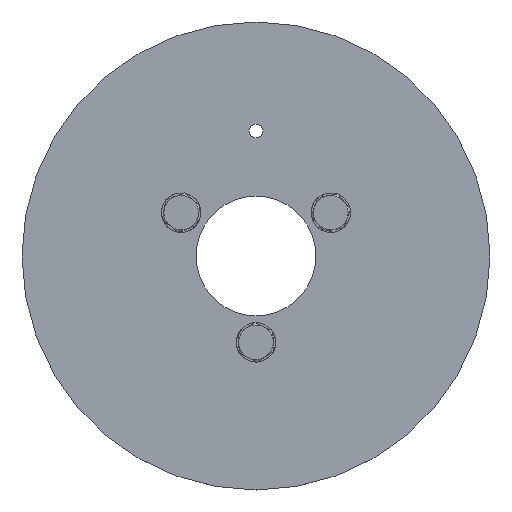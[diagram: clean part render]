
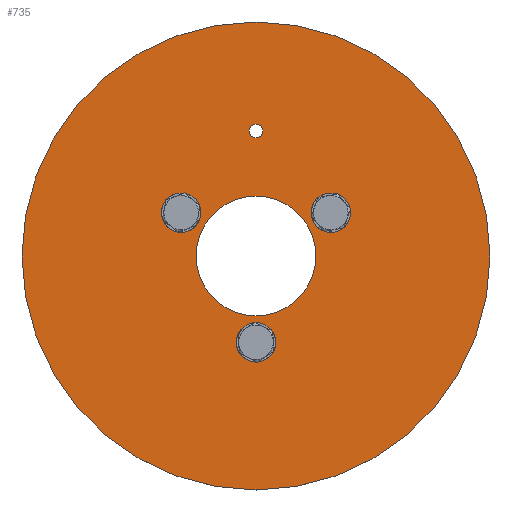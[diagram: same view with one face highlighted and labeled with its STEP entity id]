
A CAD part, top view. The second image highlights one B-rep face of the part: STEP entity #735.
In plain terms, the highlighted planar face has unit normal (0, 0, 1) as drawn and (0, -1, 0) by its records, which use the part's own axes.
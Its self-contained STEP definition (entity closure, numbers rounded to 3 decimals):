
#12 = DIRECTION ( 'NONE',  ( 0., 0., 1. ) ) ;
#42 = ORIENTED_EDGE ( 'NONE', *, *, #473, .T. ) ;
#46 = EDGE_LOOP ( 'NONE', ( #1653, #194 ) ) ;
#81 = CARTESIAN_POINT ( 'NONE',  ( -28.146, -2.5, -21.75 ) ) ;
#83 = VERTEX_POINT ( 'NONE', #508 ) ;
#130 = ORIENTED_EDGE ( 'NONE', *, *, #804, .T. ) ;
#194 = ORIENTED_EDGE ( 'NONE', *, *, #1097, .F. ) ;
#195 = DIRECTION ( 'NONE',  ( 0., 1., 0. ) ) ;
#211 = DIRECTION ( 'NONE',  ( 0., 0., 1. ) ) ;
#269 = FACE_BOUND ( 'NONE', #2398, .T. ) ;
#272 = DIRECTION ( 'NONE',  ( 0., 0., 1. ) ) ;
#279 = AXIS2_PLACEMENT_3D ( 'NONE', #1552, #2155, #3018 ) ;
#292 = FACE_BOUND ( 'NONE', #1186, .T. ) ;
#305 = ORIENTED_EDGE ( 'NONE', *, *, #1963, .T. ) ;
#334 = ORIENTED_EDGE ( 'NONE', *, *, #1368, .T. ) ;
#373 = DIRECTION ( 'NONE',  ( 0., 0., 1. ) ) ;
#407 = AXIS2_PLACEMENT_3D ( 'NONE', #3476, #3196, #1456 ) ;
#457 = VERTEX_POINT ( 'NONE', #81 ) ;
#473 = EDGE_CURVE ( 'NONE', #2250, #3361, #2476, .T. ) ;
#490 = CIRCLE ( 'NONE', #3176, 5.5 ) ;
#508 = CARTESIAN_POINT ( 'NONE',  ( 0., -2.5, -49.5 ) ) ;
#564 = FACE_BOUND ( 'NONE', #2452, .T. ) ;
#569 = DIRECTION ( 'NONE',  ( 0., 0., 1. ) ) ;
#735 = ADVANCED_FACE ( 'NONE', ( #564, #2053, #269, #292, #1433, #2331 ), #2636, .F. ) ;
#742 = CARTESIAN_POINT ( 'NONE',  ( 28.146, -2.5, -21.75 ) ) ;
#795 = DIRECTION ( 'NONE',  ( 0., 1., 0. ) ) ;
#804 = EDGE_CURVE ( 'NONE', #3361, #2250, #2778, .T. ) ;
#820 = VERTEX_POINT ( 'NONE', #1498 ) ;
#837 = AXIS2_PLACEMENT_3D ( 'NONE', #1997, #1735, #569 ) ;
#841 = AXIS2_PLACEMENT_3D ( 'NONE', #3340, #2157, #2189 ) ;
#943 = VERTEX_POINT ( 'NONE', #1447 ) ;
#1018 = AXIS2_PLACEMENT_3D ( 'NONE', #2510, #795, #2871 ) ;
#1039 = EDGE_CURVE ( 'NONE', #2188, #1724, #1511, .T. ) ;
#1050 = EDGE_CURVE ( 'NONE', #1724, #2188, #2665, .T. ) ;
#1063 = VERTEX_POINT ( 'NONE', #1957 ) ;
#1097 = EDGE_CURVE ( 'NONE', #1615, #820, #1925, .T. ) ;
#1108 = DIRECTION ( 'NONE',  ( 0., 0., 1. ) ) ;
#1109 = ORIENTED_EDGE ( 'NONE', *, *, #3165, .T. ) ;
#1186 = EDGE_LOOP ( 'NONE', ( #305, #334 ) ) ;
#1188 = AXIS2_PLACEMENT_3D ( 'NONE', #1460, #2891, #272 ) ;
#1190 = EDGE_CURVE ( 'NONE', #820, #1615, #2201, .T. ) ;
#1209 = EDGE_CURVE ( 'NONE', #1063, #83, #1736, .T. ) ;
#1210 = ORIENTED_EDGE ( 'NONE', *, *, #2979, .T. ) ;
#1229 = VERTEX_POINT ( 'NONE', #1413 ) ;
#1263 = AXIS2_PLACEMENT_3D ( 'NONE', #2489, #2929, #12 ) ;
#1285 = ORIENTED_EDGE ( 'NONE', *, *, #1039, .T. ) ;
#1324 = DIRECTION ( 'NONE',  ( 0., 1., 0. ) ) ;
#1368 = EDGE_CURVE ( 'NONE', #1229, #3358, #3674, .T. ) ;
#1413 = CARTESIAN_POINT ( 'NONE',  ( 0., -2.5, 27. ) ) ;
#1433 = FACE_BOUND ( 'NONE', #3595, .T. ) ;
#1447 = CARTESIAN_POINT ( 'NONE',  ( -28.146, -2.5, -10.75 ) ) ;
#1451 = EDGE_LOOP ( 'NONE', ( #2517, #1285 ) ) ;
#1456 = DIRECTION ( 'NONE',  ( 0., 0., 1. ) ) ;
#1460 = CARTESIAN_POINT ( 'NONE',  ( 0., -2.5, 32.5 ) ) ;
#1498 = CARTESIAN_POINT ( 'NONE',  ( 0., -2.5, 88. ) ) ;
#1511 = CIRCLE ( 'NONE', #837, 5.5 ) ;
#1540 = CARTESIAN_POINT ( 'NONE',  ( -28.146, -2.5, -16.25 ) ) ;
#1552 = CARTESIAN_POINT ( 'NONE',  ( 0., -2.5, -47. ) ) ;
#1615 = VERTEX_POINT ( 'NONE', #2498 ) ;
#1653 = ORIENTED_EDGE ( 'NONE', *, *, #1190, .F. ) ;
#1664 = CARTESIAN_POINT ( 'NONE',  ( 28.146, -2.5, -10.75 ) ) ;
#1675 = CARTESIAN_POINT ( 'NONE',  ( 0., -2.5, 0. ) ) ;
#1682 = AXIS2_PLACEMENT_3D ( 'NONE', #2520, #1324, #2767 ) ;
#1723 = CARTESIAN_POINT ( 'NONE',  ( 0., -2.5, 22.5 ) ) ;
#1724 = VERTEX_POINT ( 'NONE', #1664 ) ;
#1735 = DIRECTION ( 'NONE',  ( 0., 1., 0. ) ) ;
#1736 = CIRCLE ( 'NONE', #1796, 2.5 ) ;
#1796 = AXIS2_PLACEMENT_3D ( 'NONE', #2833, #2273, #211 ) ;
#1843 = DIRECTION ( 'NONE',  ( 0., 1., 0. ) ) ;
#1862 = CIRCLE ( 'NONE', #279, 2.5 ) ;
#1925 = CIRCLE ( 'NONE', #3518, 88. ) ;
#1938 = DIRECTION ( 'NONE',  ( 0., 0., 1. ) ) ;
#1957 = CARTESIAN_POINT ( 'NONE',  ( 0., -2.5, -44.5 ) ) ;
#1963 = EDGE_CURVE ( 'NONE', #3358, #1229, #490, .T. ) ;
#1997 = CARTESIAN_POINT ( 'NONE',  ( 28.146, -2.5, -16.25 ) ) ;
#2053 = FACE_BOUND ( 'NONE', #1451, .T. ) ;
#2107 = ORIENTED_EDGE ( 'NONE', *, *, #1209, .T. ) ;
#2122 = CARTESIAN_POINT ( 'NONE',  ( 0., -2.5, 32.5 ) ) ;
#2155 = DIRECTION ( 'NONE',  ( 0., 1., 0. ) ) ;
#2157 = DIRECTION ( 'NONE',  ( 0., 1., 0. ) ) ;
#2188 = VERTEX_POINT ( 'NONE', #742 ) ;
#2189 = DIRECTION ( 'NONE',  ( 0., 0., 1. ) ) ;
#2201 = CIRCLE ( 'NONE', #2885, 88. ) ;
#2250 = VERTEX_POINT ( 'NONE', #1723 ) ;
#2251 = DIRECTION ( 'NONE',  ( 0., 1., 0. ) ) ;
#2273 = DIRECTION ( 'NONE',  ( 0., 1., 0. ) ) ;
#2331 = FACE_OUTER_BOUND ( 'NONE', #46, .T. ) ;
#2398 = EDGE_LOOP ( 'NONE', ( #2836, #1109 ) ) ;
#2416 = CIRCLE ( 'NONE', #2774, 5.5 ) ;
#2452 = EDGE_LOOP ( 'NONE', ( #2107, #1210 ) ) ;
#2476 = CIRCLE ( 'NONE', #841, 22.5 ) ;
#2489 = CARTESIAN_POINT ( 'NONE',  ( 0., -2.5, 0. ) ) ;
#2498 = CARTESIAN_POINT ( 'NONE',  ( 0., -2.5, -88. ) ) ;
#2510 = CARTESIAN_POINT ( 'NONE',  ( 28.146, -2.5, -16.25 ) ) ;
#2517 = ORIENTED_EDGE ( 'NONE', *, *, #1050, .T. ) ;
#2520 = CARTESIAN_POINT ( 'NONE',  ( -28.146, -2.5, -16.25 ) ) ;
#2574 = CARTESIAN_POINT ( 'NONE',  ( 0., -2.5, 38. ) ) ;
#2636 = PLANE ( 'NONE',  #407 ) ;
#2665 = CIRCLE ( 'NONE', #1018, 5.5 ) ;
#2767 = DIRECTION ( 'NONE',  ( 0., 0., 1. ) ) ;
#2774 = AXIS2_PLACEMENT_3D ( 'NONE', #1540, #1843, #3007 ) ;
#2778 = CIRCLE ( 'NONE', #1263, 22.5 ) ;
#2833 = CARTESIAN_POINT ( 'NONE',  ( 0., -2.5, -47. ) ) ;
#2836 = ORIENTED_EDGE ( 'NONE', *, *, #3084, .T. ) ;
#2871 = DIRECTION ( 'NONE',  ( 0., 0., 1. ) ) ;
#2885 = AXIS2_PLACEMENT_3D ( 'NONE', #1675, #195, #1938 ) ;
#2891 = DIRECTION ( 'NONE',  ( 0., 1., 0. ) ) ;
#2929 = DIRECTION ( 'NONE',  ( 0., 1., 0. ) ) ;
#2979 = EDGE_CURVE ( 'NONE', #83, #1063, #1862, .T. ) ;
#3007 = DIRECTION ( 'NONE',  ( 0., 0., 1. ) ) ;
#3018 = DIRECTION ( 'NONE',  ( 0., 0., 1. ) ) ;
#3084 = EDGE_CURVE ( 'NONE', #943, #457, #2416, .T. ) ;
#3120 = CARTESIAN_POINT ( 'NONE',  ( 0., -2.5, 0. ) ) ;
#3165 = EDGE_CURVE ( 'NONE', #457, #943, #3320, .T. ) ;
#3176 = AXIS2_PLACEMENT_3D ( 'NONE', #2122, #3598, #373 ) ;
#3196 = DIRECTION ( 'NONE',  ( 0., 1., 0. ) ) ;
#3248 = CARTESIAN_POINT ( 'NONE',  ( 0., -2.5, -22.5 ) ) ;
#3320 = CIRCLE ( 'NONE', #1682, 5.5 ) ;
#3340 = CARTESIAN_POINT ( 'NONE',  ( 0., -2.5, 0. ) ) ;
#3358 = VERTEX_POINT ( 'NONE', #2574 ) ;
#3361 = VERTEX_POINT ( 'NONE', #3248 ) ;
#3476 = CARTESIAN_POINT ( 'NONE',  ( 0., -2.5, 0. ) ) ;
#3518 = AXIS2_PLACEMENT_3D ( 'NONE', #3120, #2251, #1108 ) ;
#3595 = EDGE_LOOP ( 'NONE', ( #42, #130 ) ) ;
#3598 = DIRECTION ( 'NONE',  ( 0., 1., 0. ) ) ;
#3674 = CIRCLE ( 'NONE', #1188, 5.5 ) ;
